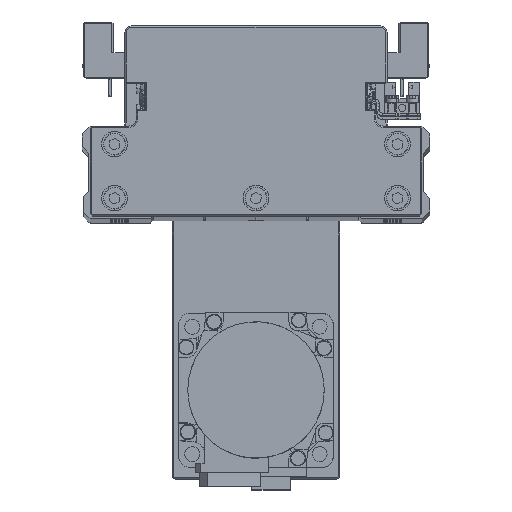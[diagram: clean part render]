
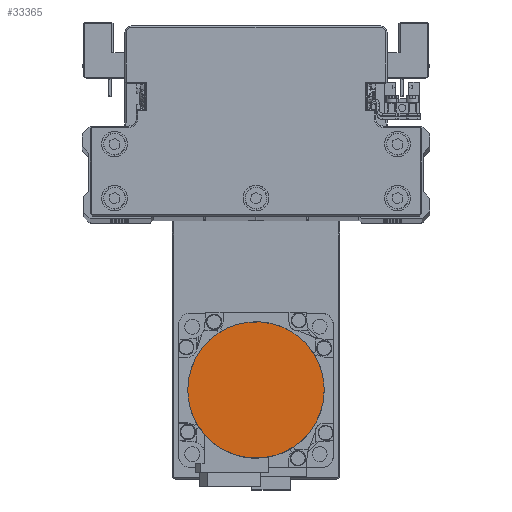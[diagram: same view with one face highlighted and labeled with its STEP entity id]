
A CAD part, top view. The second image highlights one B-rep face of the part: STEP entity #33365.
In plain terms, the highlighted planar face has unit normal (0, 0, 1) as drawn and (0, 0, -1) by its records, which use the part's own axes.
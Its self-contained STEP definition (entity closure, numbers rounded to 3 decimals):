
#1133 = CARTESIAN_POINT ( 'NONE',  ( -26.5, 0., -109.7 ) ) ;
#1265 = CARTESIAN_POINT ( 'NONE',  ( 26.329, 3.469, -109.7 ) ) ;
#1460 = CARTESIAN_POINT ( 'NONE',  ( 3.469, 26.329, -109.7 ) ) ;
#1679 = CARTESIAN_POINT ( 'NONE',  ( -23.819, 11.744, -109.7 ) ) ;
#1756 = CARTESIAN_POINT ( 'NONE',  ( -21.07, -16.165, -109.7 ) ) ;
#1962 = CARTESIAN_POINT ( 'NONE',  ( 8.539, -25.147, -109.7 ) ) ;
#1963 = CARTESIAN_POINT ( 'NONE',  ( 0., 0., -109.7 ) ) ;
#2162 = CARTESIAN_POINT ( 'NONE',  ( 26.5, 0., -109.7 ) ) ;
#2981 = ORIENTED_EDGE ( 'NONE', *, *, #15417, .F. ) ;
#4591 = CARTESIAN_POINT ( 'NONE',  ( 11.744, 23.819, -109.7 ) ) ;
#4787 = CARTESIAN_POINT ( 'NONE',  ( -19.965, 17.512, -109.7 ) ) ;
#4861 = CARTESIAN_POINT ( 'NONE',  ( -25.147, -8.539, -109.7 ) ) ;
#4978 = CARTESIAN_POINT ( 'NONE',  ( 26.5, 0., -109.7 ) ) ;
#5079 = CARTESIAN_POINT ( 'NONE',  ( 1.734, -26.5, -109.7 ) ) ;
#5275 = CARTESIAN_POINT ( 'NONE',  ( 25.652, -6.871, -109.7 ) ) ;
#7699 = CARTESIAN_POINT ( 'NONE',  ( 17.512, 19.965, -109.7 ) ) ;
#7903 = CARTESIAN_POINT ( 'NONE',  ( -13.28, 22.998, -109.7 ) ) ;
#7968 = CARTESIAN_POINT ( 'NONE',  ( -26.5, -1.734, -109.7 ) ) ;
#8169 = CARTESIAN_POINT ( 'NONE',  ( -6.871, -25.652, -109.7 ) ) ;
#8387 = CARTESIAN_POINT ( 'NONE',  ( 22.998, -13.28, -109.7 ) ) ;
#9392 = AXIS2_PLACEMENT_3D ( 'NONE', #1963, #14592, #27215 ) ;
#10785 = CARTESIAN_POINT ( 'NONE',  ( 22.998, 13.28, -109.7 ) ) ;
#11006 = CARTESIAN_POINT ( 'NONE',  ( -6.871, 25.652, -109.7 ) ) ;
#11205 = CARTESIAN_POINT ( 'NONE',  ( -26.5, 1.734, -109.7 ) ) ;
#11277 = CARTESIAN_POINT ( 'NONE',  ( -13.28, -22.998, -109.7 ) ) ;
#11477 = CARTESIAN_POINT ( 'NONE',  ( 17.512, -19.965, -109.7 ) ) ;
#13897 = CARTESIAN_POINT ( 'NONE',  ( 25.652, 6.871, -109.7 ) ) ;
#14097 = CARTESIAN_POINT ( 'NONE',  ( 1.734, 26.5, -109.7 ) ) ;
#14317 = CARTESIAN_POINT ( 'NONE',  ( -25.147, 8.539, -109.7 ) ) ;
#14394 = CARTESIAN_POINT ( 'NONE',  ( -19.965, -17.512, -109.7 ) ) ;
#14591 = CARTESIAN_POINT ( 'NONE',  ( 11.744, -23.819, -109.7 ) ) ;
#14592 = DIRECTION ( 'NONE',  ( 0., 0., 1. ) ) ;
#15417 = EDGE_CURVE ( 'NONE', #32921, #30900, #22263, .T. ) ;
#15693 = ORIENTED_EDGE ( 'NONE', *, *, #31995, .F. ) ;
#17032 = CARTESIAN_POINT ( 'NONE',  ( 26.5, 0., -109.7 ) ) ;
#17221 = CARTESIAN_POINT ( 'NONE',  ( 8.539, 25.147, -109.7 ) ) ;
#17423 = CARTESIAN_POINT ( 'NONE',  ( -21.07, 16.165, -109.7 ) ) ;
#17496 = CARTESIAN_POINT ( 'NONE',  ( -23.819, -11.744, -109.7 ) ) ;
#17725 = CARTESIAN_POINT ( 'NONE',  ( 3.469, -26.329, -109.7 ) ) ;
#17726 = FACE_OUTER_BOUND ( 'NONE', #24456, .T. ) ;
#17914 = CARTESIAN_POINT ( 'NONE',  ( 26.329, -3.469, -109.7 ) ) ;
#20336 = CARTESIAN_POINT ( 'NONE',  ( 16.165, 21.07, -109.7 ) ) ;
#20528 = CARTESIAN_POINT ( 'NONE',  ( -16.165, 21.07, -109.7 ) ) ;
#20600 = CARTESIAN_POINT ( 'NONE',  ( -26.329, -3.469, -109.7 ) ) ;
#20808 = CARTESIAN_POINT ( 'NONE',  ( -3.469, -26.329, -109.7 ) ) ;
#21027 = CARTESIAN_POINT ( 'NONE',  ( 23.819, -11.744, -109.7 ) ) ;
#21554 = B_SPLINE_CURVE_WITH_KNOTS ( 'NONE', 3,
 ( #36349, #7968, #20600, #33222, #4861, #17496, #30125, #1756, #14394, #27016, #39642, #11277, #23905, #36542, #8169, #20808, #33429, #5079, #17725, #30337, #1962, #14591, #27214, #39840, #11477, #24117, #36756, #8387, #21027, #33640, #5275, #17914, #30530, #2162 ),
 .UNSPECIFIED., .F., .F.,
 ( 4, 2, 2, 2, 2, 2, 2, 2, 2, 2, 2, 2, 2, 2, 2, 2, 4 ),
 ( 0., 0.063, 0.125, 0.188, 0.25, 0.312, 0.375, 0.437, 0.5, 0.562, 0.625, 0.687, 0.75, 0.813, 0.875, 0.938, 1. ),
 .UNSPECIFIED. ) ;
#22263 = B_SPLINE_CURVE_WITH_KNOTS ( 'NONE', 3,
 ( #17032, #29648, #1265, #13897, #26521, #39155, #10785, #23421, #36071, #7699, #20336, #32962, #4591, #17221, #29841, #1460, #14097, #26725, #39364, #11006, #23639, #36282, #7903, #20528, #33149, #4787, #17423, #30047, #1679, #14317, #26950, #39579, #11205, #23835 ),
 .UNSPECIFIED., .F., .F.,
 ( 4, 2, 2, 2, 2, 2, 2, 2, 2, 2, 2, 2, 2, 2, 2, 2, 4 ),
 ( 0., 0.062, 0.125, 0.187, 0.25, 0.312, 0.375, 0.437, 0.5, 0.562, 0.625, 0.687, 0.75, 0.813, 0.875, 0.938, 1. ),
 .UNSPECIFIED. ) ;
#23421 = CARTESIAN_POINT ( 'NONE',  ( 21.07, 16.165, -109.7 ) ) ;
#23639 = CARTESIAN_POINT ( 'NONE',  ( -8.539, 25.147, -109.7 ) ) ;
#23835 = CARTESIAN_POINT ( 'NONE',  ( -26.5, 0., -109.7 ) ) ;
#23905 = CARTESIAN_POINT ( 'NONE',  ( -11.744, -23.819, -109.7 ) ) ;
#24117 = CARTESIAN_POINT ( 'NONE',  ( 19.965, -17.512, -109.7 ) ) ;
#24456 = EDGE_LOOP ( 'NONE', ( #2981, #15693 ) ) ;
#26521 = CARTESIAN_POINT ( 'NONE',  ( 25.147, 8.539, -109.7 ) ) ;
#26725 = CARTESIAN_POINT ( 'NONE',  ( -1.734, 26.5, -109.7 ) ) ;
#26950 = CARTESIAN_POINT ( 'NONE',  ( -25.652, 6.871, -109.7 ) ) ;
#27016 = CARTESIAN_POINT ( 'NONE',  ( -17.512, -19.965, -109.7 ) ) ;
#27214 = CARTESIAN_POINT ( 'NONE',  ( 13.28, -22.998, -109.7 ) ) ;
#27215 = DIRECTION ( 'NONE',  ( 1., 0., 0. ) ) ;
#29648 = CARTESIAN_POINT ( 'NONE',  ( 26.5, 1.734, -109.7 ) ) ;
#29841 = CARTESIAN_POINT ( 'NONE',  ( 6.871, 25.652, -109.7 ) ) ;
#30047 = CARTESIAN_POINT ( 'NONE',  ( -22.998, 13.28, -109.7 ) ) ;
#30125 = CARTESIAN_POINT ( 'NONE',  ( -22.998, -13.28, -109.7 ) ) ;
#30337 = CARTESIAN_POINT ( 'NONE',  ( 6.871, -25.652, -109.7 ) ) ;
#30338 = PLANE ( 'NONE',  #9392 ) ;
#30530 = CARTESIAN_POINT ( 'NONE',  ( 26.5, -1.734, -109.7 ) ) ;
#30900 = VERTEX_POINT ( 'NONE', #1133 ) ;
#31995 = EDGE_CURVE ( 'NONE', #30900, #32921, #21554, .T. ) ;
#32921 = VERTEX_POINT ( 'NONE', #4978 ) ;
#32962 = CARTESIAN_POINT ( 'NONE',  ( 13.28, 22.998, -109.7 ) ) ;
#33149 = CARTESIAN_POINT ( 'NONE',  ( -17.512, 19.965, -109.7 ) ) ;
#33222 = CARTESIAN_POINT ( 'NONE',  ( -25.652, -6.871, -109.7 ) ) ;
#33365 = ADVANCED_FACE ( 'NONE', ( #17726 ), #30338, .F. ) ;
#33429 = CARTESIAN_POINT ( 'NONE',  ( -1.734, -26.5, -109.7 ) ) ;
#33640 = CARTESIAN_POINT ( 'NONE',  ( 25.147, -8.539, -109.7 ) ) ;
#36071 = CARTESIAN_POINT ( 'NONE',  ( 19.965, 17.512, -109.7 ) ) ;
#36282 = CARTESIAN_POINT ( 'NONE',  ( -11.744, 23.819, -109.7 ) ) ;
#36349 = CARTESIAN_POINT ( 'NONE',  ( -26.5, 0., -109.7 ) ) ;
#36542 = CARTESIAN_POINT ( 'NONE',  ( -8.539, -25.147, -109.7 ) ) ;
#36756 = CARTESIAN_POINT ( 'NONE',  ( 21.07, -16.165, -109.7 ) ) ;
#39155 = CARTESIAN_POINT ( 'NONE',  ( 23.819, 11.744, -109.7 ) ) ;
#39364 = CARTESIAN_POINT ( 'NONE',  ( -3.469, 26.329, -109.7 ) ) ;
#39579 = CARTESIAN_POINT ( 'NONE',  ( -26.329, 3.469, -109.7 ) ) ;
#39642 = CARTESIAN_POINT ( 'NONE',  ( -16.165, -21.07, -109.7 ) ) ;
#39840 = CARTESIAN_POINT ( 'NONE',  ( 16.165, -21.07, -109.7 ) ) ;
